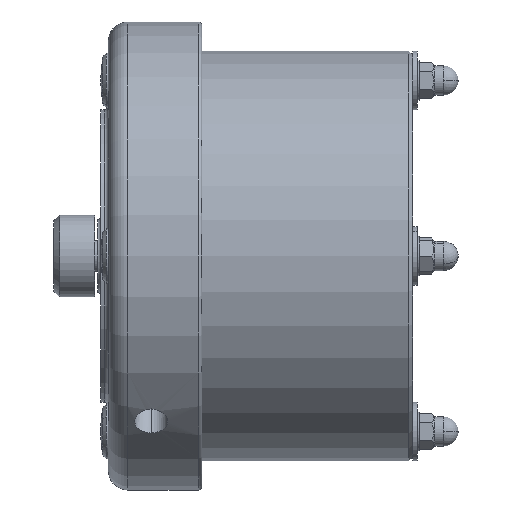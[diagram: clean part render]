
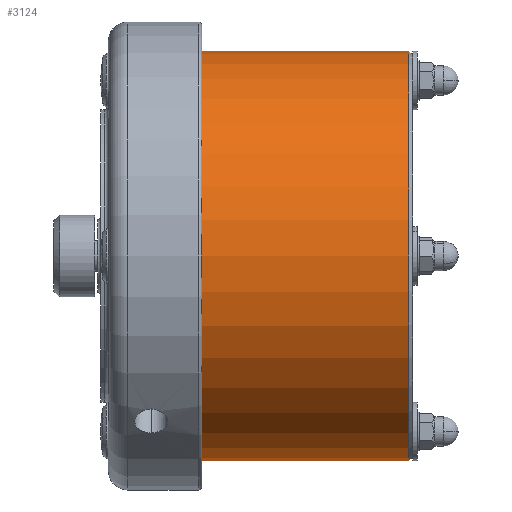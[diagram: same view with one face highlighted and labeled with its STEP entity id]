
A CAD part, front view. The second image highlights one B-rep face of the part: STEP entity #3124.
In plain terms, the highlighted cylindrical face has radius 52.5 mm (diameter 105 mm), a partial arc.
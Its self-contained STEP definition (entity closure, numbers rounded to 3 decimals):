
#325 = CARTESIAN_POINT ( 'NONE',  ( 60.999, 93.037, -68.927 ) ) ;
#380 = EDGE_CURVE ( 'NONE', #1458, #4425, #2264, .T. ) ;
#415 = FACE_OUTER_BOUND ( 'NONE', #1221, .T. ) ;
#786 = EDGE_CURVE ( 'NONE', #5032, #1458, #3977, .T. ) ;
#1221 = EDGE_LOOP ( 'NONE', ( #1224, #6325, #5317, #1313 ) ) ;
#1222 = CARTESIAN_POINT ( 'NONE',  ( 20.785, 93.037, -16.427 ) ) ;
#1224 = ORIENTED_EDGE ( 'NONE', *, *, #786, .F. ) ;
#1265 = CARTESIAN_POINT ( 'NONE',  ( 60.999, 93.037, -16.427 ) ) ;
#1313 = ORIENTED_EDGE ( 'NONE', *, *, #380, .F. ) ;
#1458 = VERTEX_POINT ( 'NONE', #4059 ) ;
#1555 = DIRECTION ( 'NONE',  ( -1., 0., 0. ) ) ;
#2264 = CIRCLE ( 'NONE', #6121, 52.5 ) ;
#2409 = EDGE_CURVE ( 'NONE', #5032, #3389, #6227, .T. ) ;
#2434 = CYLINDRICAL_SURFACE ( 'NONE', #4814, 52.5 ) ;
#3124 = ADVANCED_FACE ( 'NONE', ( #415 ), #2434, .T. ) ;
#3151 = EDGE_CURVE ( 'NONE', #3389, #4425, #3241, .T. ) ;
#3241 = LINE ( 'NONE', #1222, #3962 ) ;
#3389 = VERTEX_POINT ( 'NONE', #5750 ) ;
#3478 = DIRECTION ( 'NONE',  ( -1., 0., 0. ) ) ;
#3528 = VECTOR ( 'NONE', #3478, 1000. ) ;
#3922 = CARTESIAN_POINT ( 'NONE',  ( 113.999, 93.037, -121.427 ) ) ;
#3962 = VECTOR ( 'NONE', #4189, 1000. ) ;
#3977 = LINE ( 'NONE', #5979, #3528 ) ;
#4059 = CARTESIAN_POINT ( 'NONE',  ( 60.999, 93.037, -121.427 ) ) ;
#4189 = DIRECTION ( 'NONE',  ( -1., 0., 0. ) ) ;
#4425 = VERTEX_POINT ( 'NONE', #1265 ) ;
#4814 = AXIS2_PLACEMENT_3D ( 'NONE', #5249, #5282, #5782 ) ;
#5032 = VERTEX_POINT ( 'NONE', #3922 ) ;
#5249 = CARTESIAN_POINT ( 'NONE',  ( 20.785, 93.037, -68.927 ) ) ;
#5282 = DIRECTION ( 'NONE',  ( -1., 0., 0. ) ) ;
#5317 = ORIENTED_EDGE ( 'NONE', *, *, #3151, .T. ) ;
#5321 = DIRECTION ( 'NONE',  ( -1., 0., 0. ) ) ;
#5486 = AXIS2_PLACEMENT_3D ( 'NONE', #6055, #1555, #6084 ) ;
#5750 = CARTESIAN_POINT ( 'NONE',  ( 113.999, 93.037, -16.427 ) ) ;
#5782 = DIRECTION ( 'NONE',  ( 0., 0., 1. ) ) ;
#5851 = DIRECTION ( 'NONE',  ( 0., 0., 1. ) ) ;
#5979 = CARTESIAN_POINT ( 'NONE',  ( 20.785, 93.037, -121.427 ) ) ;
#6055 = CARTESIAN_POINT ( 'NONE',  ( 113.999, 93.037, -68.927 ) ) ;
#6084 = DIRECTION ( 'NONE',  ( 0., 0., -1. ) ) ;
#6121 = AXIS2_PLACEMENT_3D ( 'NONE', #325, #5321, #5851 ) ;
#6227 = CIRCLE ( 'NONE', #5486, 52.5 ) ;
#6325 = ORIENTED_EDGE ( 'NONE', *, *, #2409, .T. ) ;
